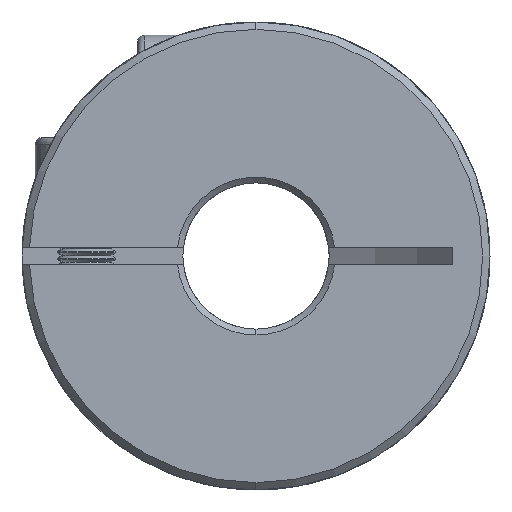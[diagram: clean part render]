
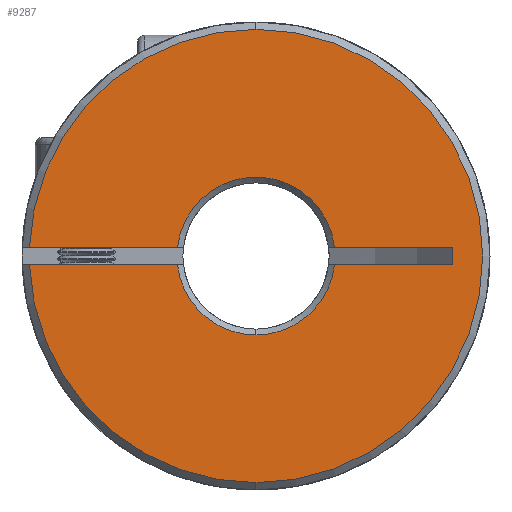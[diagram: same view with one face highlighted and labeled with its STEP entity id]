
A CAD part, front view. The second image highlights one B-rep face of the part: STEP entity #9287.
In plain terms, the highlighted planar face has unit normal (0, -1, 0).
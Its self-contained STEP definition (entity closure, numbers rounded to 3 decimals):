
#183 = VERTEX_POINT ( 'NONE', #4463 ) ;
#251 = DIRECTION ( 'NONE',  ( 0., 1., 0. ) ) ;
#282 = AXIS2_PLACEMENT_3D ( 'NONE', #7297, #4768, #6388 ) ;
#283 = LINE ( 'NONE', #5219, #8370 ) ;
#465 = ORIENTED_EDGE ( 'NONE', *, *, #922, .F. ) ;
#508 = CARTESIAN_POINT ( 'NONE',  ( -15.488, 0., 0.6 ) ) ;
#649 = EDGE_CURVE ( 'NONE', #3522, #3542, #2308, .T. ) ;
#651 = AXIS2_PLACEMENT_3D ( 'NONE', #6853, #2810, #1136 ) ;
#792 = EDGE_CURVE ( 'NONE', #9099, #3522, #7821, .T. ) ;
#922 = EDGE_CURVE ( 'NONE', #9099, #183, #1607, .T. ) ;
#999 = DIRECTION ( 'NONE',  ( 0., 0., -1. ) ) ;
#1136 = DIRECTION ( 'NONE',  ( 0., 0., 1. ) ) ;
#1197 = VECTOR ( 'NONE', #7150, 1000. ) ;
#1336 = DIRECTION ( 'NONE',  ( 0., 0., 1. ) ) ;
#1432 = EDGE_CURVE ( 'NONE', #7009, #6140, #1600, .T. ) ;
#1460 = CIRCLE ( 'NONE', #11159, 5.4 ) ;
#1493 = LINE ( 'NONE', #2094, #5652 ) ;
#1600 = CIRCLE ( 'NONE', #3223, 5.4 ) ;
#1607 = LINE ( 'NONE', #5033, #3344 ) ;
#1715 = CARTESIAN_POINT ( 'NONE',  ( 0., 0., -5.4 ) ) ;
#1757 = AXIS2_PLACEMENT_3D ( 'NONE', #9165, #6478, #1336 ) ;
#1822 = ORIENTED_EDGE ( 'NONE', *, *, #1961, .T. ) ;
#1910 = ORIENTED_EDGE ( 'NONE', *, *, #10436, .T. ) ;
#1961 = EDGE_CURVE ( 'NONE', #9266, #183, #1460, .T. ) ;
#1992 = PLANE ( 'NONE',  #3321 ) ;
#2094 = CARTESIAN_POINT ( 'NONE',  ( -50., 0., 0.6 ) ) ;
#2308 = CIRCLE ( 'NONE', #651, 15.5 ) ;
#2445 = CARTESIAN_POINT ( 'NONE',  ( 0., 0., 0. ) ) ;
#2480 = ORIENTED_EDGE ( 'NONE', *, *, #792, .T. ) ;
#2810 = DIRECTION ( 'NONE',  ( 0., -1., 0. ) ) ;
#2811 = DIRECTION ( 'NONE',  ( 0., 0., 1. ) ) ;
#3140 = VERTEX_POINT ( 'NONE', #6721 ) ;
#3223 = AXIS2_PLACEMENT_3D ( 'NONE', #3453, #10368, #5253 ) ;
#3321 = AXIS2_PLACEMENT_3D ( 'NONE', #9682, #251, #2811 ) ;
#3344 = VECTOR ( 'NONE', #9452, 1000. ) ;
#3453 = CARTESIAN_POINT ( 'NONE',  ( 0., 0., 0. ) ) ;
#3522 = VERTEX_POINT ( 'NONE', #9348 ) ;
#3542 = VERTEX_POINT ( 'NONE', #5912 ) ;
#3923 = DIRECTION ( 'NONE',  ( 0., 1., 0. ) ) ;
#4463 = CARTESIAN_POINT ( 'NONE',  ( -5.367, 0., -0.6 ) ) ;
#4541 = DIRECTION ( 'NONE',  ( 1., 0., 0. ) ) ;
#4768 = DIRECTION ( 'NONE',  ( 0., -1., 0. ) ) ;
#5033 = CARTESIAN_POINT ( 'NONE',  ( -50., 0., -0.6 ) ) ;
#5062 = AXIS2_PLACEMENT_3D ( 'NONE', #2445, #10243, #9301 ) ;
#5219 = CARTESIAN_POINT ( 'NONE',  ( 13.436, 0., -0.6 ) ) ;
#5253 = DIRECTION ( 'NONE',  ( 0., 0., 1. ) ) ;
#5652 = VECTOR ( 'NONE', #8928, 1000. ) ;
#5726 = ORIENTED_EDGE ( 'NONE', *, *, #7636, .T. ) ;
#5767 = ORIENTED_EDGE ( 'NONE', *, *, #649, .T. ) ;
#5884 = CARTESIAN_POINT ( 'NONE',  ( -15.488, 0., -0.6 ) ) ;
#5912 = CARTESIAN_POINT ( 'NONE',  ( 0., 0., 15.5 ) ) ;
#6006 = ORIENTED_EDGE ( 'NONE', *, *, #9684, .T. ) ;
#6041 = LINE ( 'NONE', #10616, #1197 ) ;
#6057 = VECTOR ( 'NONE', #4541, 1000. ) ;
#6140 = VERTEX_POINT ( 'NONE', #9344 ) ;
#6309 = CARTESIAN_POINT ( 'NONE',  ( 5.367, 0., -0.6 ) ) ;
#6388 = DIRECTION ( 'NONE',  ( 0., 0., 1. ) ) ;
#6478 = DIRECTION ( 'NONE',  ( 0., 1., 0. ) ) ;
#6721 = CARTESIAN_POINT ( 'NONE',  ( 13.436, 0., 0.6 ) ) ;
#6853 = CARTESIAN_POINT ( 'NONE',  ( 0., 0., 0. ) ) ;
#7009 = VERTEX_POINT ( 'NONE', #7091 ) ;
#7055 = VERTEX_POINT ( 'NONE', #6309 ) ;
#7089 = ORIENTED_EDGE ( 'NONE', *, *, #10636, .T. ) ;
#7091 = CARTESIAN_POINT ( 'NONE',  ( -5.367, 0., 0.6 ) ) ;
#7150 = DIRECTION ( 'NONE',  ( 1., 0., 0. ) ) ;
#7297 = CARTESIAN_POINT ( 'NONE',  ( 0., 0., 0. ) ) ;
#7600 = VERTEX_POINT ( 'NONE', #508 ) ;
#7636 = EDGE_CURVE ( 'NONE', #7600, #7009, #10959, .T. ) ;
#7726 = VERTEX_POINT ( 'NONE', #8759 ) ;
#7761 = ORIENTED_EDGE ( 'NONE', *, *, #1432, .T. ) ;
#7821 = CIRCLE ( 'NONE', #282, 15.5 ) ;
#7904 = CARTESIAN_POINT ( 'NONE',  ( -50., 0., 0.6 ) ) ;
#8136 = ORIENTED_EDGE ( 'NONE', *, *, #10793, .F. ) ;
#8226 = CIRCLE ( 'NONE', #1757, 5.4 ) ;
#8251 = CIRCLE ( 'NONE', #5062, 15.5 ) ;
#8370 = VECTOR ( 'NONE', #999, 1000. ) ;
#8759 = CARTESIAN_POINT ( 'NONE',  ( 13.436, 0., -0.6 ) ) ;
#8763 = ORIENTED_EDGE ( 'NONE', *, *, #10203, .T. ) ;
#8928 = DIRECTION ( 'NONE',  ( 1., 0., 0. ) ) ;
#9099 = VERTEX_POINT ( 'NONE', #5884 ) ;
#9148 = CARTESIAN_POINT ( 'NONE',  ( 0., 0., 0. ) ) ;
#9165 = CARTESIAN_POINT ( 'NONE',  ( 0., 0., 0. ) ) ;
#9266 = VERTEX_POINT ( 'NONE', #1715 ) ;
#9287 = ADVANCED_FACE ( 'NONE', ( #9757 ), #1992, .F. ) ;
#9301 = DIRECTION ( 'NONE',  ( 0., 0., 1. ) ) ;
#9344 = CARTESIAN_POINT ( 'NONE',  ( 5.367, 0., 0.6 ) ) ;
#9348 = CARTESIAN_POINT ( 'NONE',  ( 0., 0., -15.5 ) ) ;
#9452 = DIRECTION ( 'NONE',  ( 1., 0., 0. ) ) ;
#9682 = CARTESIAN_POINT ( 'NONE',  ( -50., 0., -18.413 ) ) ;
#9684 = EDGE_CURVE ( 'NONE', #3542, #7600, #8251, .T. ) ;
#9757 = FACE_OUTER_BOUND ( 'NONE', #9899, .T. ) ;
#9899 = EDGE_LOOP ( 'NONE', ( #465, #2480, #5767, #6006, #5726, #7761, #8763, #7089, #8136, #1910, #1822 ) ) ;
#10001 = DIRECTION ( 'NONE',  ( 0., 0., 1. ) ) ;
#10203 = EDGE_CURVE ( 'NONE', #6140, #3140, #1493, .T. ) ;
#10243 = DIRECTION ( 'NONE',  ( 0., -1., 0. ) ) ;
#10368 = DIRECTION ( 'NONE',  ( 0., 1., 0. ) ) ;
#10436 = EDGE_CURVE ( 'NONE', #7055, #9266, #8226, .T. ) ;
#10616 = CARTESIAN_POINT ( 'NONE',  ( -50., 0., -0.6 ) ) ;
#10636 = EDGE_CURVE ( 'NONE', #3140, #7726, #283, .T. ) ;
#10793 = EDGE_CURVE ( 'NONE', #7055, #7726, #6041, .T. ) ;
#10959 = LINE ( 'NONE', #7904, #6057 ) ;
#11159 = AXIS2_PLACEMENT_3D ( 'NONE', #9148, #3923, #10001 ) ;
